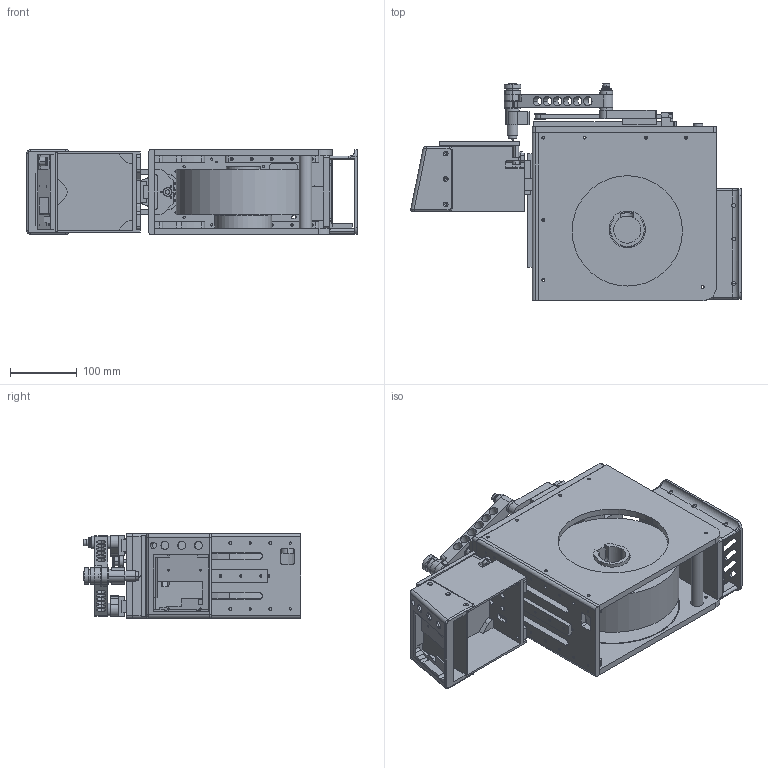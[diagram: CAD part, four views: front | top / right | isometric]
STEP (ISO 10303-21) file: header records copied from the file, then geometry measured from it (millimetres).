
FILE_DESCRIPTION (( 'STEP AP214' ), '1' );
FILE_NAME ('FU_Master_V2_ForWeb.STEP', '2026-04-07T16:11:07', ( '' ), ( '' ), 'SwSTEP 2.0', 'SolidWorks 2023', '' );
FILE_SCHEMA (( 'AUTOMOTIVE_DESIGN' ));
Length unit declared in the file: millimetre
Products named in the file (1): FU_Master_V2_ForWeb
Bounding box: 494.37 x 324.5 x 127 mm (x, y, z)
Volume: 5233767.5 mm3; surface area: 1188814.1 mm2
Topology: 78 solids, 78 shells, 1955 faces, 5146 edges, 3383 vertices
Faces by surface type: cylinder 1114, plane 703, cone 108, torus 24, bspline 6
Entity records: 64951 total; most frequent: CARTESIAN_POINT 12179, DIRECTION 11400, ORIENTED_EDGE 10292, EDGE_CURVE 5146, AXIS2_PLACEMENT_3D 4353, VERTEX_POINT 3383, EDGE_LOOP 2723, LINE 2694
